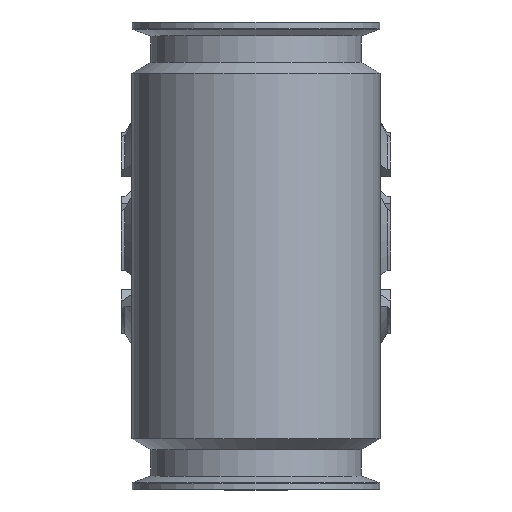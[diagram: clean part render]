
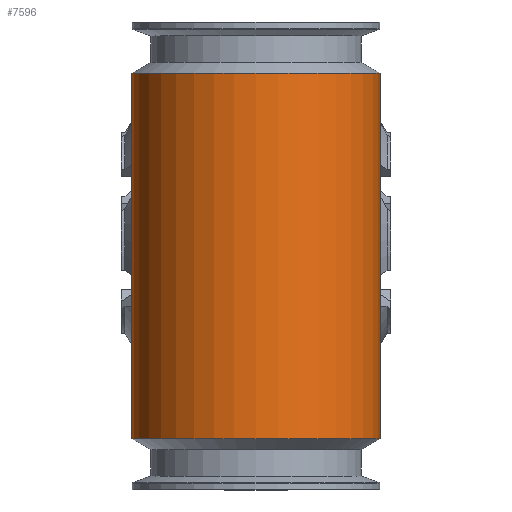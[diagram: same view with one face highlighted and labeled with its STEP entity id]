
A CAD part, front view. The second image highlights one B-rep face of the part: STEP entity #7596.
In plain terms, the highlighted cylindrical face has radius 53 mm (diameter 106 mm), a full revolution.
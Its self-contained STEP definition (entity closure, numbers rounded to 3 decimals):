
#742=CIRCLE('',#27231,53.);
#743=CIRCLE('',#27232,53.);
#3105=LINE('',#44771,#5906);
#3106=LINE('',#44785,#5907);
#5906=VECTOR('',#32095,1.);
#5907=VECTOR('',#32096,1.);
#6027=CYLINDRICAL_SURFACE('',#27233,53.);
#6226=FACE_BOUND('',#11103,.T.);
#6227=FACE_BOUND('',#11104,.T.);
#6228=FACE_BOUND('',#11105,.T.);
#7596=ADVANCED_FACE('',(#6226,#6227,#6228),#6027,.T.);
#11103=EDGE_LOOP('',(#18288));
#11104=EDGE_LOOP('',(#18289));
#11105=EDGE_LOOP('',(#18290,#18291,#18292,#18293));
#18288=ORIENTED_EDGE('',*,*,#24529,.T.);
#18289=ORIENTED_EDGE('',*,*,#24530,.T.);
#18290=ORIENTED_EDGE('',*,*,#24531,.F.);
#18291=ORIENTED_EDGE('',*,*,#24532,.T.);
#18292=ORIENTED_EDGE('',*,*,#24533,.F.);
#18293=ORIENTED_EDGE('',*,*,#24534,.T.);
#20900=VERTEX_POINT('',#44768);
#20901=VERTEX_POINT('',#44770);
#20902=VERTEX_POINT('',#44772);
#20903=VERTEX_POINT('',#44773);
#20904=VERTEX_POINT('',#44784);
#20905=VERTEX_POINT('',#44786);
#24529=EDGE_CURVE('',#20900,#20900,#742,.T.);
#24530=EDGE_CURVE('',#20901,#20901,#743,.T.);
#24531=EDGE_CURVE('',#20902,#20903,#3105,.T.);
#24532=EDGE_CURVE('',#20902,#20904,#26251,.T.);
#24533=EDGE_CURVE('',#20905,#20904,#3106,.T.);
#24534=EDGE_CURVE('',#20905,#20903,#26252,.T.);
#26251=B_SPLINE_CURVE_WITH_KNOTS('',3,(#44774,#44775,#44776,#44777,#44778,
#44779,#44780,#44781,#44782,#44783),.UNSPECIFIED.,.F.,.F.,(4,2,2,2,4),(0.,
0.25,0.5,0.75,1.),.UNSPECIFIED.);
#26252=B_SPLINE_CURVE_WITH_KNOTS('',3,(#44787,#44788,#44789,#44790,#44791,
#44792,#44793,#44794,#44795,#44796),.UNSPECIFIED.,.F.,.F.,(4,2,2,2,4),(0.,
0.25,0.5,0.75,1.),.UNSPECIFIED.);
#27231=AXIS2_PLACEMENT_3D('',#44767,#32091,#32092);
#27232=AXIS2_PLACEMENT_3D('',#44769,#32093,#32094);
#27233=AXIS2_PLACEMENT_3D('',#44797,#32097,#32098);
#32091=DIRECTION('',(0.,0.,1.));
#32092=DIRECTION('',(-1.,0.,0.));
#32093=DIRECTION('',(0.,0.,-1.));
#32094=DIRECTION('',(1.,0.,0.));
#32095=DIRECTION('',(0.,0.,-1.));
#32096=DIRECTION('',(0.,0.,1.));
#32097=DIRECTION('',(0.,0.,1.));
#32098=DIRECTION('',(-1.,0.,0.));
#44767=CARTESIAN_POINT('',(0.,-42.,-87.874));
#44768=CARTESIAN_POINT('',(-53.,-42.,-87.874));
#44769=CARTESIAN_POINT('',(0.,-42.,68.358));
#44770=CARTESIAN_POINT('',(53.,-42.,68.358));
#44771=CARTESIAN_POINT('',(14.422,9.,-123.358));
#44772=CARTESIAN_POINT('',(14.422,9.,5.861));
#44773=CARTESIAN_POINT('',(14.422,9.,-5.86));
#44774=CARTESIAN_POINT('',(14.422,9.,5.861));
#44775=CARTESIAN_POINT('',(13.232,9.337,8.699));
#44776=CARTESIAN_POINT('',(11.197,9.868,11.104));
#44777=CARTESIAN_POINT('',(6.117,10.709,14.439));
#44778=CARTESIAN_POINT('',(3.092,11.,15.352));
#44779=CARTESIAN_POINT('',(-3.081,11.,15.353));
#44780=CARTESIAN_POINT('',(-6.121,10.708,14.437));
#44781=CARTESIAN_POINT('',(-11.194,9.868,11.108));
#44782=CARTESIAN_POINT('',(-13.23,9.337,8.698));
#44783=CARTESIAN_POINT('',(-14.422,9.,5.86));
#44784=CARTESIAN_POINT('',(-14.422,9.,5.86));
#44785=CARTESIAN_POINT('',(-14.422,9.,-123.358));
#44786=CARTESIAN_POINT('',(-14.422,9.,-5.86));
#44787=CARTESIAN_POINT('',(-14.422,9.,-5.86));
#44788=CARTESIAN_POINT('',(-13.229,9.338,-8.697));
#44789=CARTESIAN_POINT('',(-11.197,9.868,-11.107));
#44790=CARTESIAN_POINT('',(-6.117,10.709,-14.44));
#44791=CARTESIAN_POINT('',(-3.091,11.,-15.351));
#44792=CARTESIAN_POINT('',(3.083,11.,-15.354));
#44793=CARTESIAN_POINT('',(6.122,10.708,-14.436));
#44794=CARTESIAN_POINT('',(11.195,9.868,-11.107));
#44795=CARTESIAN_POINT('',(13.23,9.337,-8.698));
#44796=CARTESIAN_POINT('',(14.422,9.,-5.86));
#44797=CARTESIAN_POINT('',(0.,-42.,-123.358));
